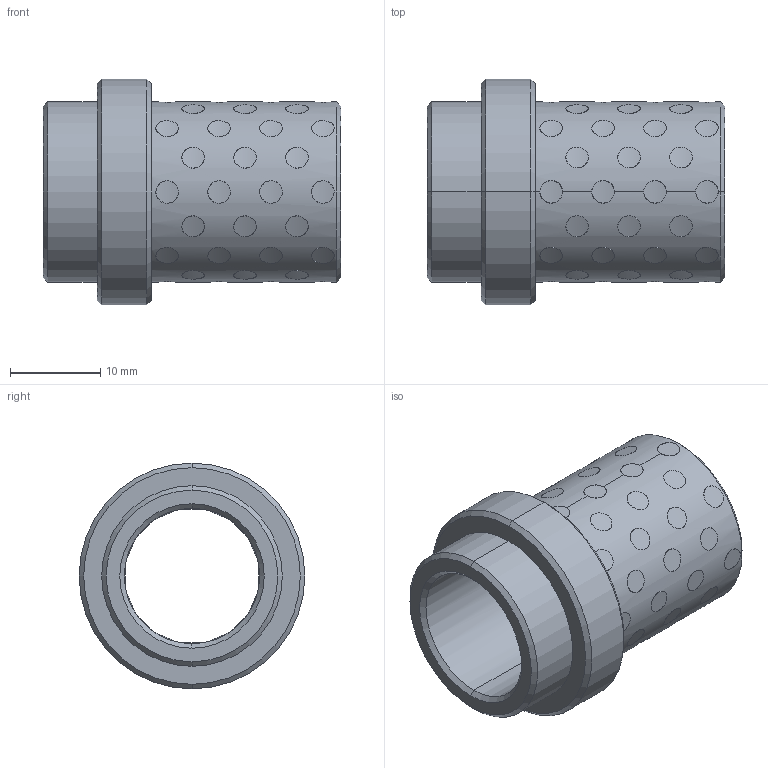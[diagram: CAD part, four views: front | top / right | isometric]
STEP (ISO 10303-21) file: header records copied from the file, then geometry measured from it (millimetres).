
FILE_DESCRIPTION((''),'2;1');
FILE_NAME('G31215027','2017-12-30T',('MANU'),(''),'PRO/ENGINEER BY PARAMETRIC TECHNOLOGY CORPORATION, 2012130','PRO/ENGINEER BY PARAMETRIC TECHNOLOGY CORPORATION, 2012130','');
FILE_SCHEMA(('CONFIG_CONTROL_DESIGN'));
Length unit declared in the file: millimetre
Products named in the file (1): G31215027
Bounding box: 33 x 25 x 25 mm (x, y, z)
Volume: 5540.8 mm3; surface area: 6437.4 mm2
Topology: 57 solids, 57 shells, 360 faces, 768 edges, 508 vertices
Faces by surface type: cylinder 344, cone 12, plane 4
Entity records: 15740 total; most frequent: CARTESIAN_POINT 8678, ORIENTED_EDGE 1536, DIRECTION 1036, EDGE_CURVE 768, VERTEX_POINT 508, B_SPLINE_CURVE_WITH_KNOTS 480, EDGE_LOOP 460, AXIS2_PLACEMENT_3D 388
